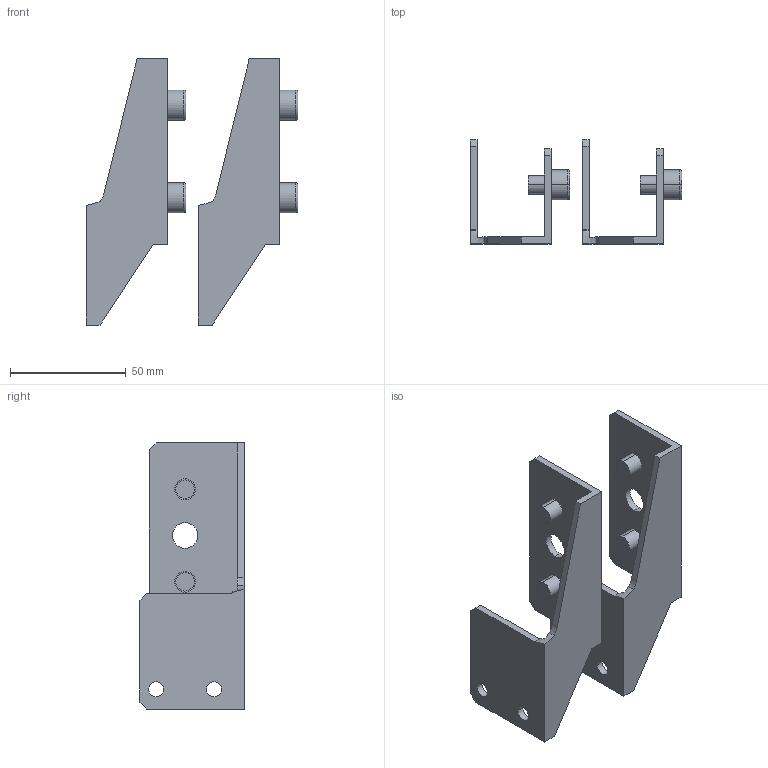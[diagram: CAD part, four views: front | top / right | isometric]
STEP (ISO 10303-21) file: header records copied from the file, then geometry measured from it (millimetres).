
FILE_DESCRIPTION (( 'STEP AP214' ), '1' );
FILE_NAME ('FO-00-NPE-2 Êðîíøòåéí N-PE òèï 2 (2 øò.óïàê.).STEP', '2025-08-20T07:59:09', ( '' ), ( '' ), 'SwSTEP 2.0', 'SolidWorks 2023', '' );
FILE_SCHEMA (( 'AUTOMOTIVE_DESIGN' ));
Length unit declared in the file: millimetre
Products named in the file (4): _X2_04120438043d0442_X0_ _X2_041c_X0_8_X2_0445_X0_10 IEK__X2_04120438043d0442_X0_ A2 _X2_041c_X0_8_X2_0445_X0_25 DIN 912; _X2_041a0440043e043d0448044204350439043d_X0_ N-PE _X2_04420438043f_X0_ 2; FO-00-NPE-2 Кронштейн N-PE тип 2 (2 шт.упак.); Кронштейн присоединительного узла
Assembly tree (5 placements, depth 3):
  FO-00-NPE-2 Кронштейн N-PE тип 2 (2 шт.упак.)
    Кронштейн присоединительного узла  x2
      _X2_041a0440043e043d0448044204350439043d_X0_ N-PE _X2_04420438043f_X0_ 2
      _X2_04120438043d0442_X0_ _X2_041c_X0_8_X2_0445_X0_10 IEK__X2_04120438043d0442_X0_ A2 _X2_041c_X0_8_X2_0445_X0_25 DIN 912
Bounding box: 91.48 x 45 x 115 mm (x, y, z)
Volume: 49858.9 mm3; surface area: 36377.8 mm2
Topology: 6 solids, 6 shells, 126 faces, 310 edges, 204 vertices
Faces by surface type: plane 76, cylinder 40, bspline 10
Entity records: 1667 total; most frequent: CARTESIAN_POINT 366, DIRECTION 255, ORIENTED_EDGE 242, EDGE_CURVE 121, AXIS2_PLACEMENT_3D 87, LINE 81, VECTOR 81, VERTEX_POINT 80
